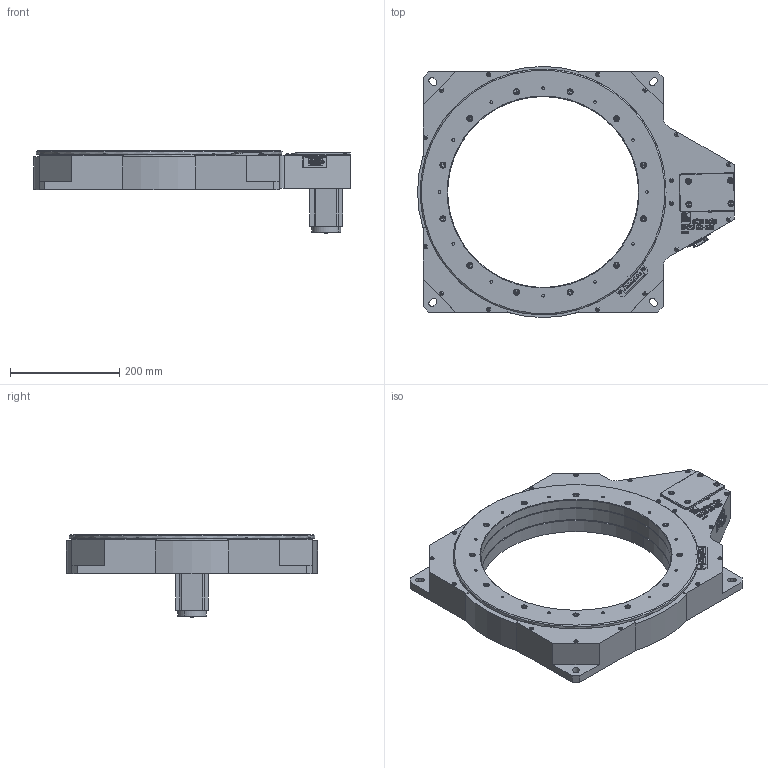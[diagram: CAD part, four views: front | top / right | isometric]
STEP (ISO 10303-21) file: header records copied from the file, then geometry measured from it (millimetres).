
FILE_DESCRIPTION((''),'2;1');
FILE_NAME('8MRB450-350-60D SB.stp','2017-01-27T14:03:01',(''),(''),'Mechanical Desktop 2011','Mechanical Desktop 2011',', , ');
FILE_SCHEMA(('CONFIG_CONTROL_DESIGN'));
Length unit declared in the file: millimetre
Products named in the file (1): Product
Bounding box: 580.29 x 460 x 152 mm (x, y, z)
Volume: 7675549.7 mm3; surface area: 686983 mm2
Topology: 1 solids, 72 shells, 3102 faces, 7952 edges, 5108 vertices
Faces by surface type: plane 1355, bspline 815, cylinder 597, cone 213, torus 88, sphere 34
Entity records: 104585 total; most frequent: CARTESIAN_POINT 32789, ORIENTED_EDGE 15536, DIRECTION 13962, EDGE_CURVE 7768, VERTEX_POINT 5108, AXIS2_PLACEMENT_3D 5015, VECTOR 3932, LINE 3932
